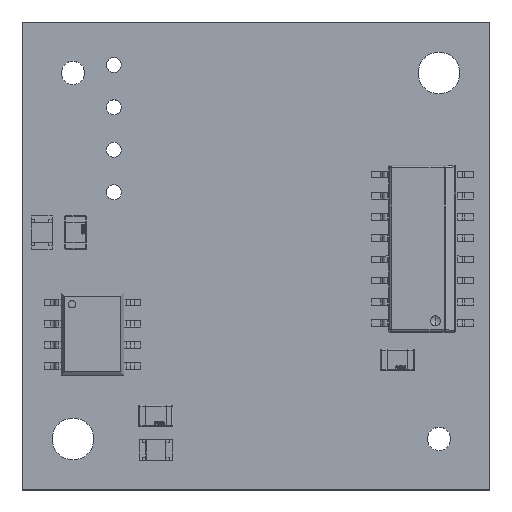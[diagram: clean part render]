
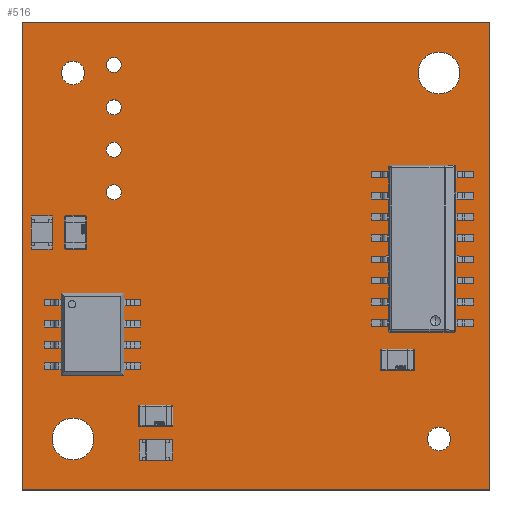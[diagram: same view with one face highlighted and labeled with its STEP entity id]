
A CAD part, top view. The second image highlights one B-rep face of the part: STEP entity #516.
In plain terms, the highlighted planar face has unit normal (0, 0, 1).
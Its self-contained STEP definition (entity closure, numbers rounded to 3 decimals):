
#99 = VERTEX_POINT('',#100);
#100 = CARTESIAN_POINT('',(-11.054,-1.478,0.));
#106 = EDGE_CURVE('',#99,#107,#109,.T.);
#107 = VERTEX_POINT('',#108);
#108 = CARTESIAN_POINT('',(16.946,-1.478,0.));
#109 = LINE('',#110,#111);
#110 = CARTESIAN_POINT('',(-11.054,-1.478,0.));
#111 = VECTOR('',#112,1.);
#112 = DIRECTION('',(1.,0.,0.));
#137 = EDGE_CURVE('',#107,#138,#140,.T.);
#138 = VERTEX_POINT('',#139);
#139 = CARTESIAN_POINT('',(16.946,26.522,0.));
#140 = LINE('',#141,#142);
#141 = CARTESIAN_POINT('',(16.946,-1.478,0.));
#142 = VECTOR('',#143,1.);
#143 = DIRECTION('',(0.,1.,0.));
#168 = EDGE_CURVE('',#138,#169,#171,.T.);
#169 = VERTEX_POINT('',#170);
#170 = CARTESIAN_POINT('',(-11.054,26.522,0.));
#171 = LINE('',#172,#173);
#172 = CARTESIAN_POINT('',(16.946,26.522,0.));
#173 = VECTOR('',#174,1.);
#174 = DIRECTION('',(-1.,0.,0.));
#199 = EDGE_CURVE('',#169,#99,#200,.T.);
#200 = LINE('',#201,#202);
#201 = CARTESIAN_POINT('',(-11.054,26.522,0.));
#202 = VECTOR('',#203,1.);
#203 = DIRECTION('',(0.,-1.,0.));
#223 = VERTEX_POINT('',#224);
#224 = CARTESIAN_POINT('',(-6.754,1.572,0.));
#230 = EDGE_CURVE('',#223,#223,#231,.T.);
#231 = CIRCLE('',#232,1.25);
#232 = AXIS2_PLACEMENT_3D('',#233,#234,#235);
#233 = CARTESIAN_POINT('',(-8.004,1.572,0.));
#234 = DIRECTION('',(0.,0.,1.));
#235 = DIRECTION('',(1.,0.,0.));
#256 = VERTEX_POINT('',#257);
#257 = CARTESIAN_POINT('',(-5.113,16.332,0.));
#263 = EDGE_CURVE('',#256,#256,#264,.T.);
#264 = CIRCLE('',#265,0.45);
#265 = AXIS2_PLACEMENT_3D('',#266,#267,#268);
#266 = CARTESIAN_POINT('',(-5.563,16.332,0.));
#267 = DIRECTION('',(0.,0.,1.));
#268 = DIRECTION('',(1.,0.,0.));
#289 = VERTEX_POINT('',#290);
#290 = CARTESIAN_POINT('',(-7.304,23.472,0.));
#296 = EDGE_CURVE('',#289,#289,#297,.T.);
#297 = CIRCLE('',#298,0.7);
#298 = AXIS2_PLACEMENT_3D('',#299,#300,#301);
#299 = CARTESIAN_POINT('',(-8.004,23.472,0.));
#300 = DIRECTION('',(0.,0.,1.));
#301 = DIRECTION('',(1.,0.,0.));
#322 = VERTEX_POINT('',#323);
#323 = CARTESIAN_POINT('',(-5.113,18.872,0.));
#329 = EDGE_CURVE('',#322,#322,#330,.T.);
#330 = CIRCLE('',#331,0.45);
#331 = AXIS2_PLACEMENT_3D('',#332,#333,#334);
#332 = CARTESIAN_POINT('',(-5.563,18.872,0.));
#333 = DIRECTION('',(0.,0.,1.));
#334 = DIRECTION('',(1.,0.,0.));
#355 = VERTEX_POINT('',#356);
#356 = CARTESIAN_POINT('',(-5.113,21.412,0.));
#362 = EDGE_CURVE('',#355,#355,#363,.T.);
#363 = CIRCLE('',#364,0.45);
#364 = AXIS2_PLACEMENT_3D('',#365,#366,#367);
#365 = CARTESIAN_POINT('',(-5.563,21.412,0.));
#366 = DIRECTION('',(0.,0.,1.));
#367 = DIRECTION('',(1.,0.,0.));
#388 = VERTEX_POINT('',#389);
#389 = CARTESIAN_POINT('',(14.596,1.572,0.));
#395 = EDGE_CURVE('',#388,#388,#396,.T.);
#396 = CIRCLE('',#397,0.7);
#397 = AXIS2_PLACEMENT_3D('',#398,#399,#400);
#398 = CARTESIAN_POINT('',(13.896,1.572,0.));
#399 = DIRECTION('',(0.,0.,1.));
#400 = DIRECTION('',(1.,0.,0.));
#421 = VERTEX_POINT('',#422);
#422 = CARTESIAN_POINT('',(-5.113,23.952,0.));
#428 = EDGE_CURVE('',#421,#421,#429,.T.);
#429 = CIRCLE('',#430,0.45);
#430 = AXIS2_PLACEMENT_3D('',#431,#432,#433);
#431 = CARTESIAN_POINT('',(-5.563,23.952,0.));
#432 = DIRECTION('',(0.,0.,1.));
#433 = DIRECTION('',(1.,0.,0.));
#454 = VERTEX_POINT('',#455);
#455 = CARTESIAN_POINT('',(15.146,23.472,0.));
#461 = EDGE_CURVE('',#454,#454,#462,.T.);
#462 = CIRCLE('',#463,1.25);
#463 = AXIS2_PLACEMENT_3D('',#464,#465,#466);
#464 = CARTESIAN_POINT('',(13.896,23.472,0.));
#465 = DIRECTION('',(0.,0.,1.));
#466 = DIRECTION('',(1.,0.,0.));
#516 = ADVANCED_FACE('',(#517,#523,#526,#529,#532,#535,#538,#541,#544),
  #547,.F.);
#517 = FACE_BOUND('',#518,.T.);
#518 = EDGE_LOOP('',(#519,#520,#521,#522));
#519 = ORIENTED_EDGE('',*,*,#106,.T.);
#520 = ORIENTED_EDGE('',*,*,#137,.T.);
#521 = ORIENTED_EDGE('',*,*,#168,.T.);
#522 = ORIENTED_EDGE('',*,*,#199,.T.);
#523 = FACE_BOUND('',#524,.F.);
#524 = EDGE_LOOP('',(#525));
#525 = ORIENTED_EDGE('',*,*,#230,.T.);
#526 = FACE_BOUND('',#527,.F.);
#527 = EDGE_LOOP('',(#528));
#528 = ORIENTED_EDGE('',*,*,#263,.T.);
#529 = FACE_BOUND('',#530,.F.);
#530 = EDGE_LOOP('',(#531));
#531 = ORIENTED_EDGE('',*,*,#296,.T.);
#532 = FACE_BOUND('',#533,.F.);
#533 = EDGE_LOOP('',(#534));
#534 = ORIENTED_EDGE('',*,*,#329,.T.);
#535 = FACE_BOUND('',#536,.F.);
#536 = EDGE_LOOP('',(#537));
#537 = ORIENTED_EDGE('',*,*,#362,.T.);
#538 = FACE_BOUND('',#539,.F.);
#539 = EDGE_LOOP('',(#540));
#540 = ORIENTED_EDGE('',*,*,#395,.T.);
#541 = FACE_BOUND('',#542,.F.);
#542 = EDGE_LOOP('',(#543));
#543 = ORIENTED_EDGE('',*,*,#428,.T.);
#544 = FACE_BOUND('',#545,.F.);
#545 = EDGE_LOOP('',(#546));
#546 = ORIENTED_EDGE('',*,*,#461,.T.);
#547 = PLANE('',#548);
#548 = AXIS2_PLACEMENT_3D('',#549,#550,#551);
#549 = CARTESIAN_POINT('',(-11.054,-1.478,0.));
#550 = DIRECTION('',(0.,0.,-1.));
#551 = DIRECTION('',(-1.,0.,0.));
